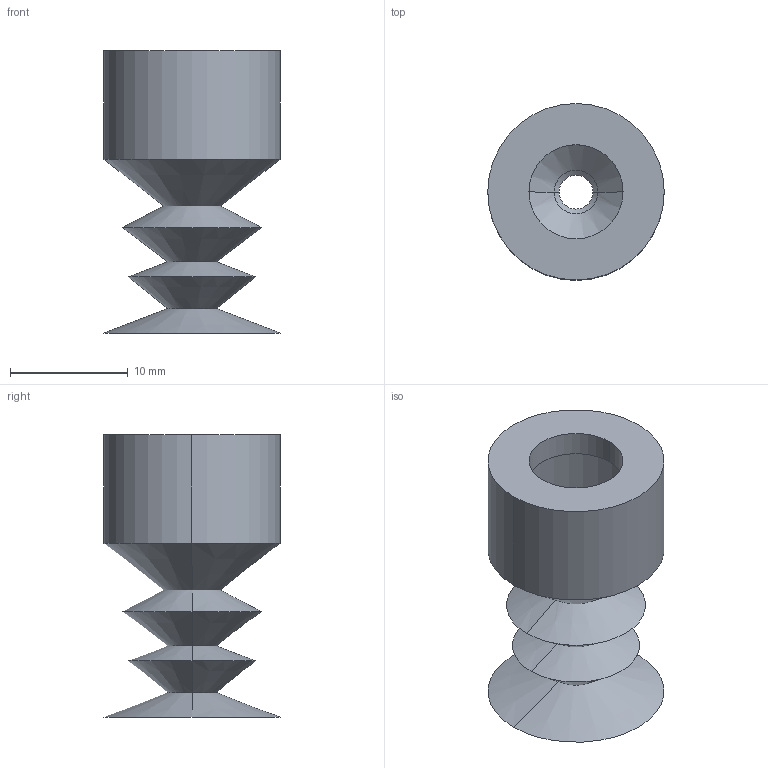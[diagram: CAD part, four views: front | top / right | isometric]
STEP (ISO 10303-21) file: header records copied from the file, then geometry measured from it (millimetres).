
FILE_DESCRIPTION (( 'STEP AP214' ), '1' );
FILE_NAME ('VSH3-M15.STEP', '2019-12-02T08:29:13', ( '微软用户' ), ( '微软中国' ), 'SwSTEP 2.0', 'SolidWorks 2016', '' );
FILE_SCHEMA (( 'AUTOMOTIVE_DESIGN' ));
Length unit declared in the file: millimetre
Products named in the file (1): VSH3-M15
Bounding box: 15 x 15 x 24 mm (x, y, z)
Volume: 644.6 mm3; surface area: 2538.8 mm2
Topology: 1 solids, 1 shells, 36 faces, 72 edges, 40 vertices
Faces by surface type: cone 24, cylinder 8, plane 4
Entity records: 962 total; most frequent: DIRECTION 186, CARTESIAN_POINT 149, ORIENTED_EDGE 144, AXIS2_PLACEMENT_3D 77, EDGE_CURVE 72, VERTEX_POINT 40, EDGE_LOOP 40, CIRCLE 40
